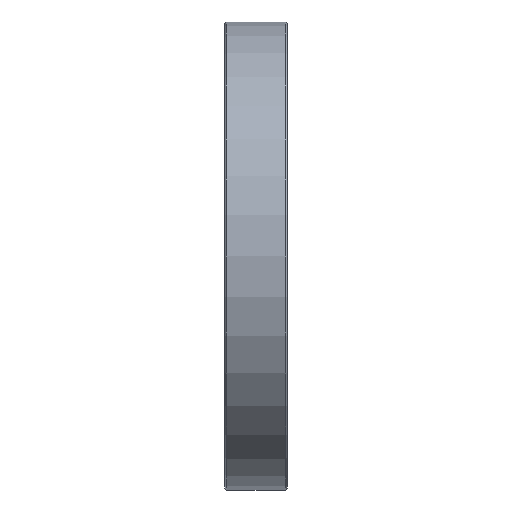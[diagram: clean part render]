
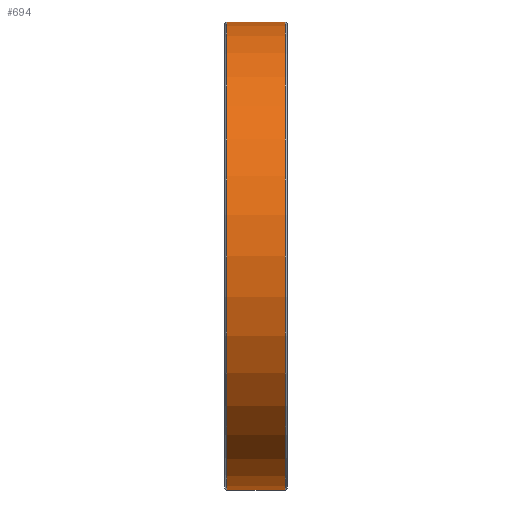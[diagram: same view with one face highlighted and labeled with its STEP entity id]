
A CAD part, front view. The second image highlights one B-rep face of the part: STEP entity #694.
In plain terms, the highlighted cylindrical face has radius 75 mm (diameter 150 mm), a full revolution.
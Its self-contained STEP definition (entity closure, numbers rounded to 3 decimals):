
#194=CYLINDRICAL_SURFACE('',#1114,75.);
#330=EDGE_LOOP('',(#478));
#331=EDGE_LOOP('',(#479));
#478=ORIENTED_EDGE('',*,*,#560,.F.);
#479=ORIENTED_EDGE('',*,*,#558,.T.);
#558=EDGE_CURVE('',#1023,#1023,#578,.T.);
#560=EDGE_CURVE('',#1025,#1025,#580,.T.);
#578=CIRCLE('',#1110,75.);
#580=CIRCLE('',#1113,75.);
#694=ADVANCED_FACE('',(#889,#890),#194,.T.);
#889=FACE_BOUND('',#330,.T.);
#890=FACE_BOUND('',#331,.T.);
#1023=VERTEX_POINT('',#2442);
#1025=VERTEX_POINT('',#2447);
#1110=AXIS2_PLACEMENT_3D('',#2441,#1265,#1266);
#1113=AXIS2_PLACEMENT_3D('',#2446,#1271,#1272);
#1114=AXIS2_PLACEMENT_3D('',#2448,#1273,#1274);
#1265=DIRECTION('',(1.,0.,0.));
#1266=DIRECTION('',(0.,0.,-1.));
#1271=DIRECTION('',(1.,0.,0.));
#1272=DIRECTION('',(0.,0.,-1.));
#1273=DIRECTION('',(1.,0.,0.));
#1274=DIRECTION('',(0.,0.,-1.));
#2441=CARTESIAN_POINT('',(-9.4,0.,0.));
#2442=CARTESIAN_POINT('',(-9.4,0.,-75.));
#2446=CARTESIAN_POINT('',(9.4,0.,0.));
#2447=CARTESIAN_POINT('',(9.4,0.,-75.));
#2448=CARTESIAN_POINT('',(-9.4,0.,0.));
